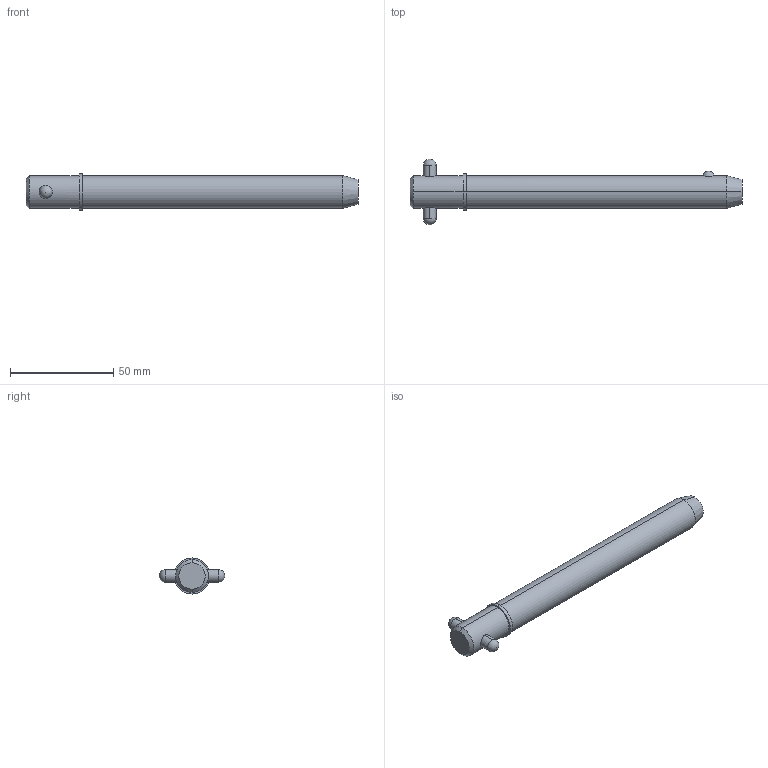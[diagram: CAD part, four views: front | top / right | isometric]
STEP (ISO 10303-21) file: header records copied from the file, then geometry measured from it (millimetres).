
FILE_DESCRIPTION (( 'STEP AP203' ), '1' );
FILE_NAME ('33018.W6245.step', '2024-11-19T17:18:59', ( '' ), ( '' ), 'SwSTEP 2.0', 'SolidWorks 2019', '' );
FILE_SCHEMA (( 'CONFIG_CONTROL_DESIGN' ));
Length unit declared in the file: millimetre
Products named in the file (3): 33018.W6245; Part1_33018.W6245; Part2_33018.W6245
Assembly tree (2 placements, depth 2):
  33018.W6245
    Part1_33018.W6245
    Part2_33018.W6245
Bounding box: 160.66 x 31.75 x 17.47 mm (x, y, z)
Volume: 31972.6 mm3; surface area: 9221.7 mm2
Topology: 2 solids, 2 shells, 22 faces, 47 edges, 30 vertices
Faces by surface type: cylinder 10, sphere 4, cone 4, plane 4
Entity records: 1047 total; most frequent: CARTESIAN_POINT 290, DIRECTION 110, ORIENTED_EDGE 82, AXIS2_PLACEMENT_3D 48, EDGE_CURVE 41, EDGE_LOOP 27, PERSON_AND_ORGANIZATION 26, VERTEX_POINT 26
